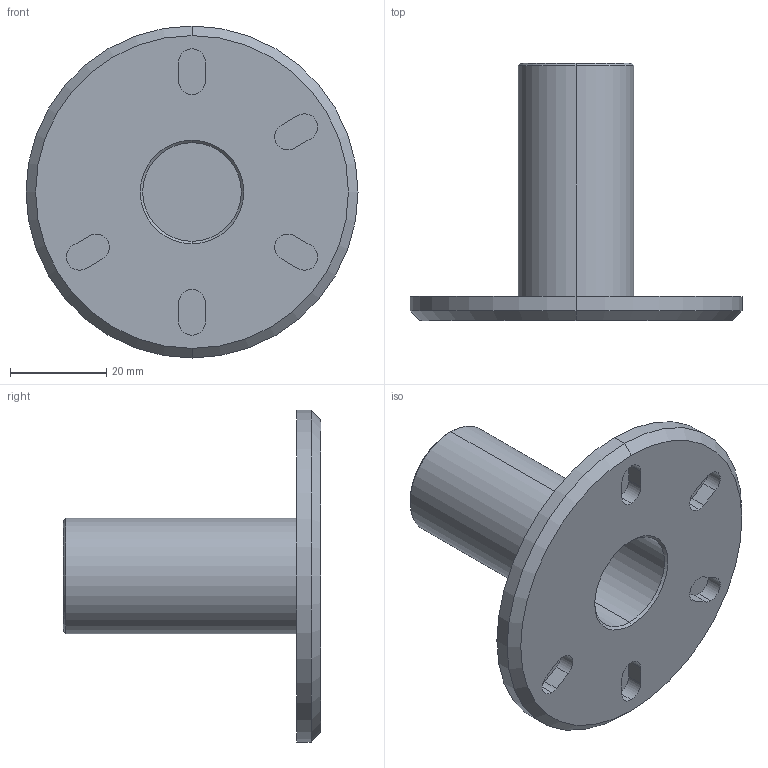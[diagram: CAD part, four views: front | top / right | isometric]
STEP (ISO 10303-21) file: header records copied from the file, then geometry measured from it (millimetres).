
FILE_DESCRIPTION (( 'STEP AP214' ), '1' );
FILE_NAME ('Cilon_Surface_Mount_Adjustable.STEP', '2018-12-04T05:35:01', ( '' ), ( '' ), 'SwSTEP 2.0', 'SolidWorks 2017', '' );
FILE_SCHEMA (( 'AUTOMOTIVE_DESIGN' ));
Length unit declared in the file: millimetre
Products named in the file (1): Cilon_Surface_Mount_Adjustable
Bounding box: 69 x 53.5 x 69 mm (x, y, z)
Volume: 26191.3 mm3; surface area: 14937.6 mm2
Topology: 1 solids, 1 shells, 46 faces, 105 edges, 68 vertices
Faces by surface type: cylinder 21, plane 19, cone 6
Entity records: 1343 total; most frequent: DIRECTION 247, CARTESIAN_POINT 220, ORIENTED_EDGE 210, EDGE_CURVE 105, AXIS2_PLACEMENT_3D 95, VERTEX_POINT 68, LINE 57, VECTOR 57
